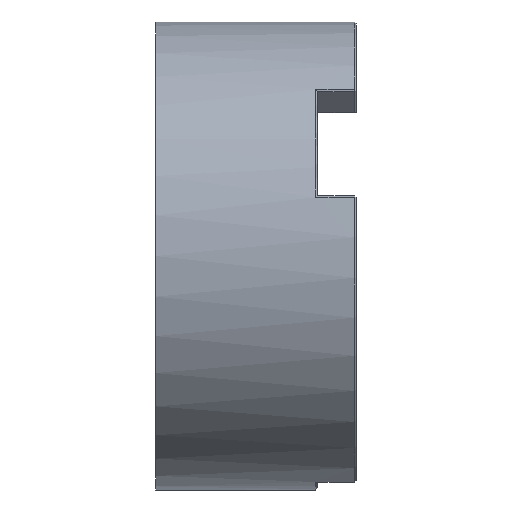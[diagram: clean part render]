
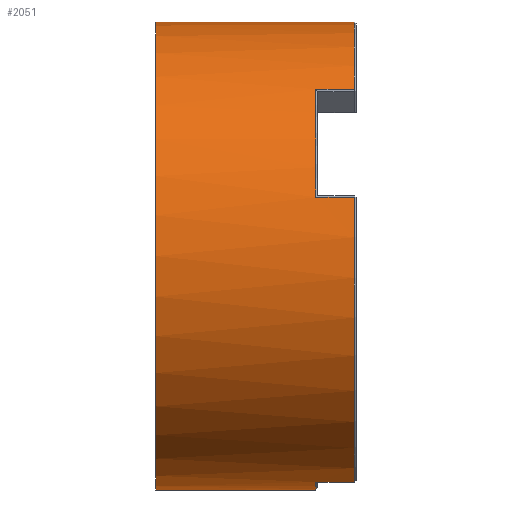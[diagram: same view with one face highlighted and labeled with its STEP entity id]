
A CAD part, front view. The second image highlights one B-rep face of the part: STEP entity #2051.
In plain terms, the highlighted cylindrical face has radius 31.5 mm (diameter 63 mm), a partial arc.
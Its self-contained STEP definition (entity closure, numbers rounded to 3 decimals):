
#2 = VECTOR ( 'NONE', #3495, 1000. ) ;
#22 = CARTESIAN_POINT ( 'NONE',  ( 20.751, 0., 31.5 ) ) ;
#28 = VECTOR ( 'NONE', #1290, 1000. ) ;
#153 = CARTESIAN_POINT ( 'NONE',  ( 15.55, -30.491, 7.909 ) ) ;
#165 = ORIENTED_EDGE ( 'NONE', *, *, #1920, .T. ) ;
#175 = ORIENTED_EDGE ( 'NONE', *, *, #589, .T. ) ;
#233 = ORIENTED_EDGE ( 'NONE', *, *, #3203, .T. ) ;
#262 = LINE ( 'NONE', #2409, #2 ) ;
#279 = CIRCLE ( 'NONE', #1060, 31.5 ) ;
#288 = CARTESIAN_POINT ( 'NONE',  ( -6., 0., 0. ) ) ;
#326 = VERTEX_POINT ( 'NONE', #999 ) ;
#385 = DIRECTION ( 'NONE',  ( -1., 0., 0. ) ) ;
#433 = VERTEX_POINT ( 'NONE', #1805 ) ;
#443 = LINE ( 'NONE', #3210, #3153 ) ;
#480 = AXIS2_PLACEMENT_3D ( 'NONE', #552, #2704, #2164 ) ;
#503 = FACE_OUTER_BOUND ( 'NONE', #3040, .T. ) ;
#526 = EDGE_CURVE ( 'NONE', #2585, #3266, #262, .T. ) ;
#552 = CARTESIAN_POINT ( 'NONE',  ( 20.751, 0., 0. ) ) ;
#589 = EDGE_CURVE ( 'NONE', #2585, #3144, #862, .T. ) ;
#683 = VERTEX_POINT ( 'NONE', #1998 ) ;
#690 = CARTESIAN_POINT ( 'NONE',  ( 21., 0., 31.5 ) ) ;
#727 = CARTESIAN_POINT ( 'NONE',  ( 15.55, 0., -31.5 ) ) ;
#804 = AXIS2_PLACEMENT_3D ( 'NONE', #1050, #2067, #2120 ) ;
#848 = AXIS2_PLACEMENT_3D ( 'NONE', #1348, #2168, #2742 ) ;
#862 = CIRCLE ( 'NONE', #1867, 31.5 ) ;
#865 = AXIS2_PLACEMENT_3D ( 'NONE', #1702, #385, #2031 ) ;
#916 = EDGE_CURVE ( 'NONE', #3144, #2881, #3315, .T. ) ;
#956 = ORIENTED_EDGE ( 'NONE', *, *, #2946, .T. ) ;
#981 = CARTESIAN_POINT ( 'NONE',  ( 20.751, -22.096, 22.451 ) ) ;
#999 = CARTESIAN_POINT ( 'NONE',  ( -6., 0., 31.5 ) ) ;
#1050 = CARTESIAN_POINT ( 'NONE',  ( 21., 0., 0. ) ) ;
#1055 = VECTOR ( 'NONE', #1159, 1000. ) ;
#1060 = AXIS2_PLACEMENT_3D ( 'NONE', #288, #2414, #1634 ) ;
#1085 = CARTESIAN_POINT ( 'NONE',  ( 15.55, 0., 0. ) ) ;
#1159 = DIRECTION ( 'NONE',  ( 1., 0., 0. ) ) ;
#1241 = ORIENTED_EDGE ( 'NONE', *, *, #3284, .T. ) ;
#1290 = DIRECTION ( 'NONE',  ( -1., 0., 0. ) ) ;
#1298 = DIRECTION ( 'NONE',  ( -1., 0., 0. ) ) ;
#1348 = CARTESIAN_POINT ( 'NONE',  ( 20.75, 0., 0. ) ) ;
#1451 = LINE ( 'NONE', #690, #28 ) ;
#1558 = CYLINDRICAL_SURFACE ( 'NONE', #804, 31.5 ) ;
#1563 = VERTEX_POINT ( 'NONE', #22 ) ;
#1593 = EDGE_CURVE ( 'NONE', #3266, #326, #279, .T. ) ;
#1634 = DIRECTION ( 'NONE',  ( 0., 0., 1. ) ) ;
#1648 = CIRCLE ( 'NONE', #865, 31.5 ) ;
#1702 = CARTESIAN_POINT ( 'NONE',  ( 15.55, 0., 0. ) ) ;
#1732 = CARTESIAN_POINT ( 'NONE',  ( 15.55, -8.153, -30.427 ) ) ;
#1805 = CARTESIAN_POINT ( 'NONE',  ( 20.75, -30.491, 7.909 ) ) ;
#1867 = AXIS2_PLACEMENT_3D ( 'NONE', #1085, #1298, #2441 ) ;
#1916 = VERTEX_POINT ( 'NONE', #153 ) ;
#1920 = EDGE_CURVE ( 'NONE', #1916, #683, #1648, .T. ) ;
#1998 = CARTESIAN_POINT ( 'NONE',  ( 15.55, -22.096, 22.451 ) ) ;
#2031 = DIRECTION ( 'NONE',  ( 0., 0., -1. ) ) ;
#2044 = CIRCLE ( 'NONE', #480, 31.5 ) ;
#2051 = ADVANCED_FACE ( 'NONE', ( #503 ), #1558, .T. ) ;
#2067 = DIRECTION ( 'NONE',  ( -1., 0., 0. ) ) ;
#2075 = VERTEX_POINT ( 'NONE', #981 ) ;
#2089 = ORIENTED_EDGE ( 'NONE', *, *, #2633, .T. ) ;
#2096 = CARTESIAN_POINT ( 'NONE',  ( 21., -22.096, 22.451 ) ) ;
#2120 = DIRECTION ( 'NONE',  ( 0., 0., 1. ) ) ;
#2164 = DIRECTION ( 'NONE',  ( 0., 0., -1. ) ) ;
#2168 = DIRECTION ( 'NONE',  ( -1., 0., 0. ) ) ;
#2175 = ORIENTED_EDGE ( 'NONE', *, *, #1593, .F. ) ;
#2211 = CARTESIAN_POINT ( 'NONE',  ( 15.8, -8.153, -30.427 ) ) ;
#2284 = ORIENTED_EDGE ( 'NONE', *, *, #916, .T. ) ;
#2409 = CARTESIAN_POINT ( 'NONE',  ( 21., 0., -31.5 ) ) ;
#2414 = DIRECTION ( 'NONE',  ( -1., 0., 0. ) ) ;
#2441 = DIRECTION ( 'NONE',  ( 0., 0., -1. ) ) ;
#2566 = ORIENTED_EDGE ( 'NONE', *, *, #3466, .T. ) ;
#2585 = VERTEX_POINT ( 'NONE', #727 ) ;
#2620 = CARTESIAN_POINT ( 'NONE',  ( 20.75, -8.153, -30.427 ) ) ;
#2633 = EDGE_CURVE ( 'NONE', #433, #1916, #443, .T. ) ;
#2674 = VECTOR ( 'NONE', #3380, 1000. ) ;
#2677 = DIRECTION ( 'NONE',  ( -1., 0., 0. ) ) ;
#2704 = DIRECTION ( 'NONE',  ( -1., 0., 0. ) ) ;
#2742 = DIRECTION ( 'NONE',  ( 0., 0., -1. ) ) ;
#2881 = VERTEX_POINT ( 'NONE', #2620 ) ;
#2946 = EDGE_CURVE ( 'NONE', #2881, #433, #3387, .T. ) ;
#3040 = EDGE_LOOP ( 'NONE', ( #3158, #175, #2284, #956, #2089, #165, #1241, #2566, #233, #2175 ) ) ;
#3144 = VERTEX_POINT ( 'NONE', #1732 ) ;
#3145 = LINE ( 'NONE', #2096, #2674 ) ;
#3153 = VECTOR ( 'NONE', #2677, 1000. ) ;
#3158 = ORIENTED_EDGE ( 'NONE', *, *, #526, .F. ) ;
#3181 = CARTESIAN_POINT ( 'NONE',  ( -6., 0., -31.5 ) ) ;
#3203 = EDGE_CURVE ( 'NONE', #1563, #326, #1451, .T. ) ;
#3210 = CARTESIAN_POINT ( 'NONE',  ( 21., -30.491, 7.909 ) ) ;
#3266 = VERTEX_POINT ( 'NONE', #3181 ) ;
#3284 = EDGE_CURVE ( 'NONE', #683, #2075, #3145, .T. ) ;
#3315 = LINE ( 'NONE', #2211, #1055 ) ;
#3380 = DIRECTION ( 'NONE',  ( 1., 0., 0. ) ) ;
#3387 = CIRCLE ( 'NONE', #848, 31.5 ) ;
#3466 = EDGE_CURVE ( 'NONE', #2075, #1563, #2044, .T. ) ;
#3495 = DIRECTION ( 'NONE',  ( -1., 0., 0. ) ) ;
